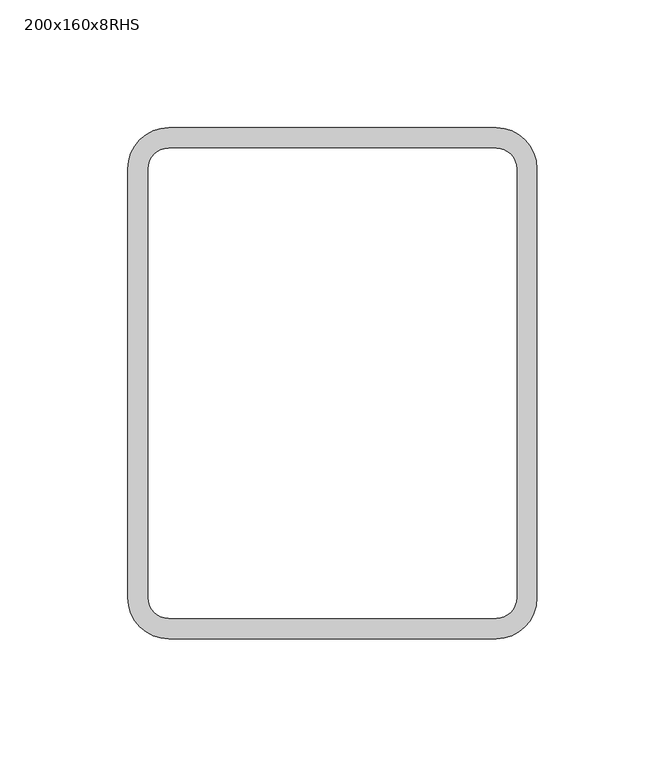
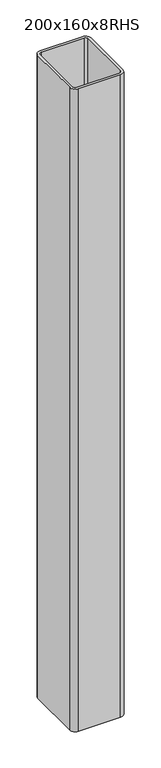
"""IFC4 building model written with IfcOpenShell, lengths in millimetres: column geometry, ППС-Прямоугольное пустотелое сечение-Колонна : 200x160x8RHS."""

from ifc_helpers import new_model, si_unit, point, frame_2d, origin, origin_with_axes, place, context, project, spatial, polyline, circle_curve, trimmed, segment, composite_curve, outline, extrude, source, transform, mapped, element, save


def column_200x160x8rhs_3ddef152(model_context):
    return source(origin(), model_context, "Body", "SweptSolid", [
        extrude(outline(composite_curve([segment(trimmed(circle_curve(frame_2d((64.0, 84.0)), 16.0), [point((64.0, 100.0))], [point((80.0, 84.0))], False, "CARTESIAN"), True, "CONTINUOUS"), segment(polyline([(80.0, 84.0), (80.0, -84.0)]), True, "CONTINUOUS"), segment(trimmed(circle_curve(frame_2d((64.0, -84.0)), 16.0), [point((80.0, -84.0))], [point((64.0, -100.0))], False, "CARTESIAN"), True, "CONTINUOUS"), segment(polyline([(64.0, -100.0), (-64.0, -100.0)]), True, "CONTINUOUS"), segment(trimmed(circle_curve(frame_2d((-64.0, -84.0)), 16.0), [point((-64.0, -100.0))], [point((-80.0, -84.0))], False, "CARTESIAN"), True, "CONTINUOUS"), segment(polyline([(-80.0, -84.0), (-80.0, 84.0)]), True, "CONTINUOUS"), segment(trimmed(circle_curve(frame_2d((-64.0, 84.0)), 16.0), [point((-80.0, 84.0))], [point((-64.0, 100.0))], False, "CARTESIAN"), True, "CONTINUOUS"), segment(polyline([(-64.0, 100.0), (64.0, 100.0)]), True, "CONTINUOUS")], self_intersect=False), holes=[composite_curve([segment(polyline([(64.0, 92.0), (-64.0, 92.0)]), True, "CONTINUOUS"), segment(trimmed(circle_curve(frame_2d((-64.0, 84.0)), 8.0), [point((-64.0, 92.0))], [point((-72.0, 84.0))], True, "CARTESIAN"), True, "CONTINUOUS"), segment(polyline([(-72.0, 84.0), (-72.0, -84.0)]), True, "CONTINUOUS"), segment(trimmed(circle_curve(frame_2d((-64.0, -84.0)), 8.0), [point((-72.0, -84.0))], [point((-64.0, -92.0))], True, "CARTESIAN"), True, "CONTINUOUS"), segment(polyline([(-64.0, -92.0), (64.0, -92.0)]), True, "CONTINUOUS"), segment(trimmed(circle_curve(frame_2d((64.0, -84.0)), 8.0), [point((64.0, -92.0))], [point((72.0, -84.0))], True, "CARTESIAN"), True, "CONTINUOUS"), segment(polyline([(72.0, -84.0), (72.0, 84.0)]), True, "CONTINUOUS"), segment(trimmed(circle_curve(frame_2d((64.0, 84.0)), 8.0), [point((72.0, 84.0))], [point((64.0, 92.0))], True, "CARTESIAN"), True, "CONTINUOUS")], self_intersect=False)]), origin_with_axes(), (0.0, 0.0, 1.0), 2048.0),
    ])


if __name__ == "__main__":
    model = new_model("IFC4")
    model_context = context("Model", 3, world=origin())
    ifc_project = project(units=[si_unit("LENGTHUNIT", "METRE", prefix="MILLI")], contexts=[model_context])
    site = spatial("IfcSite", under=ifc_project)
    building = spatial("IfcBuilding", under=site)
    placement = place(None, origin())
    column_200x160x8rhs_shape = column_200x160x8rhs_3ddef152(model_context)
    element("IfcColumn", 1, ObjectType="ППС-Прямоугольное пустотелое сечение-Колонна : 200x160x8RHS", at=placement, inside=building, context=model_context, shape_type="MappedRepresentation", body=[
        mapped(column_200x160x8rhs_shape, transform((0.0, 0.0, 0.0), x_axis=(1.0, 0.0, 0.0), y_axis=(0.0, 1.0, 0.0), z_axis=(0.0, 0.0, 1.0))),
    ])
    save(model, "model.ifc")
